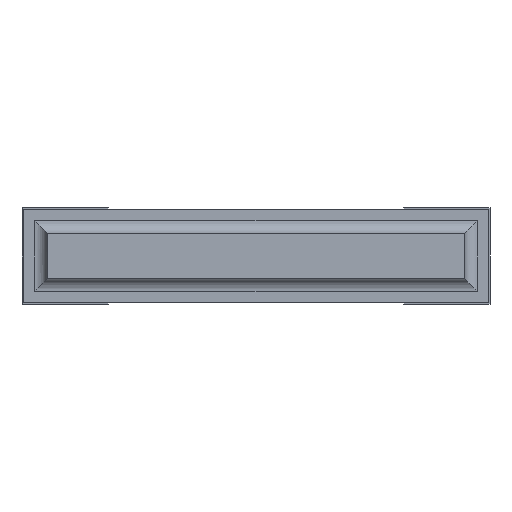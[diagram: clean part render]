
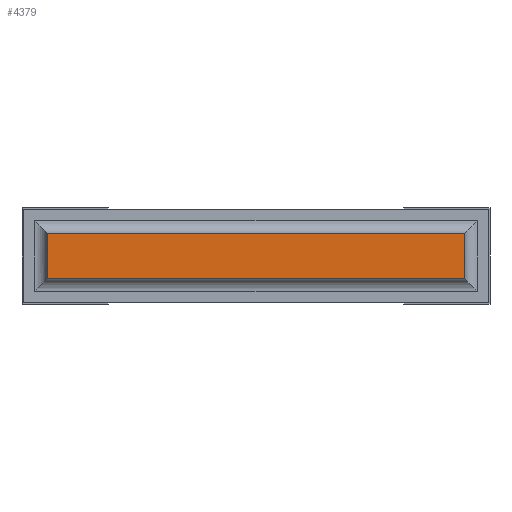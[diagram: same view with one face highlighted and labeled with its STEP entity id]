
A CAD part, front view. The second image highlights one B-rep face of the part: STEP entity #4379.
In plain terms, the highlighted planar face has unit normal (0, -1, 0).
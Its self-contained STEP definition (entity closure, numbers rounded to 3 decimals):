
#177=FACE_OUTER_BOUND('',#449,.T.);
#449=EDGE_LOOP('',(#2931,#2932,#2933,#2934));
#729=LINE('',#6243,#1301);
#738=LINE('',#6271,#1310);
#745=LINE('',#6288,#1317);
#746=LINE('',#6290,#1318);
#1301=VECTOR('',#5011,10.);
#1310=VECTOR('',#5036,10.);
#1317=VECTOR('',#5053,10.);
#1318=VECTOR('',#5056,10.);
#1873=VERTEX_POINT('',#6240);
#1874=VERTEX_POINT('',#6242);
#1885=VERTEX_POINT('',#6270);
#1890=VERTEX_POINT('',#6286);
#2273=EDGE_CURVE('',#1874,#1873,#729,.T.);
#2286=EDGE_CURVE('',#1874,#1885,#738,.T.);
#2295=EDGE_CURVE('',#1890,#1873,#745,.T.);
#2296=EDGE_CURVE('',#1885,#1890,#746,.T.);
#2931=ORIENTED_EDGE('',*,*,#2295,.F.);
#2932=ORIENTED_EDGE('',*,*,#2296,.F.);
#2933=ORIENTED_EDGE('',*,*,#2286,.F.);
#2934=ORIENTED_EDGE('',*,*,#2273,.T.);
#4159=PLANE('',#4691);
#4379=ADVANCED_FACE('',(#177),#4159,.T.);
#4691=AXIS2_PLACEMENT_3D('',#6289,#5054,#5055);
#5011=DIRECTION('',(0.,0.,-1.));
#5036=DIRECTION('',(1.,0.,0.));
#5053=DIRECTION('',(-1.,0.,0.));
#5054=DIRECTION('center_axis',(0.,-1.,0.));
#5055=DIRECTION('ref_axis',(0.,0.,-1.));
#5056=DIRECTION('',(0.,0.,-1.));
#6240=CARTESIAN_POINT('',(0.1,0.,0.16));
#6242=CARTESIAN_POINT('',(0.1,0.,0.34));
#6243=CARTESIAN_POINT('',(0.1,0.,0.34));
#6270=CARTESIAN_POINT('',(1.75,0.,0.34));
#6271=CARTESIAN_POINT('',(0.1,0.,0.34));
#6286=CARTESIAN_POINT('',(1.75,0.,0.16));
#6288=CARTESIAN_POINT('',(1.75,0.,0.16));
#6289=CARTESIAN_POINT('Origin',(1.75,0.,0.25));
#6290=CARTESIAN_POINT('',(1.75,0.,0.34));
